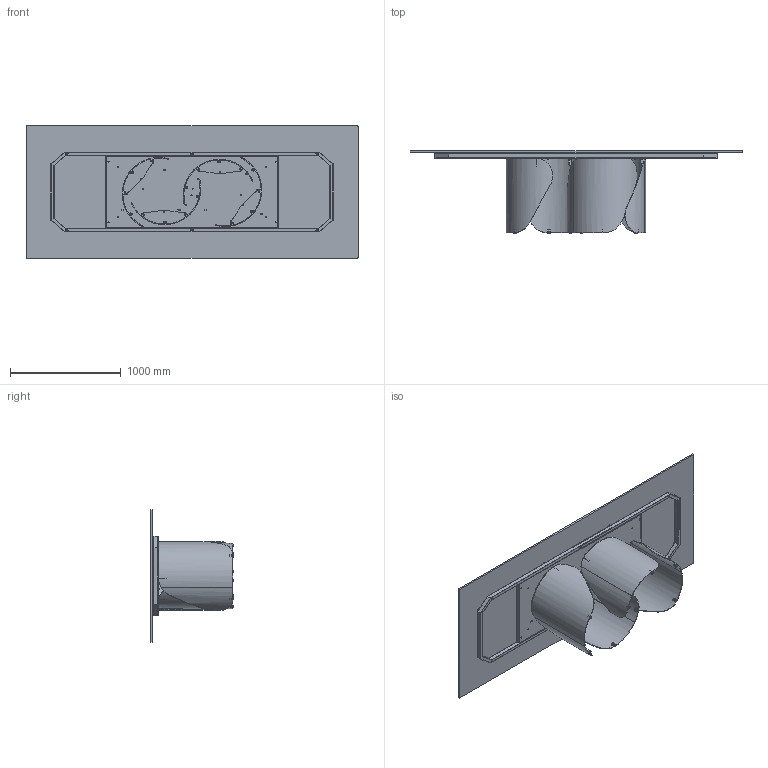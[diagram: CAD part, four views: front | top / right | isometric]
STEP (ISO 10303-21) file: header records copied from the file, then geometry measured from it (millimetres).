
FILE_DESCRIPTION (( 'STEP AP203' ), '1' );
FILE_NAME ('ON24G.STEP', '2024-08-06T13:42:54', ( '' ), ( '' ), 'SwSTEP 2.0', 'SolidWorks 2022', '' );
FILE_SCHEMA (( 'CONFIG_CONTROL_DESIGN' ));
Length unit declared in the file: millimetre
Products named in the file (15): 434070-00-PIEDINO TPV GOMMA NERO D. 30x8max18_filo estetico; COLLO TELAIO UNIVERSALE TTAV07 CON FERRAMENTA_MTG TOP CRISTALLO VERNICIATO-CERAMICA; TTAV07_01-04-STRUTTURA TAVOLI PLAI ONDA NOA 300; PIEDINO PER ONDA; TTAV07_02-01-VASSOIO TELAIO  PLAI ONDA NOA 300; rondella M8_8X24; OND000000-03-ONDA BASE GREZZA; M8xXXmm_M8x20mm; OND000000_03-00-LAMIERA CURVATA PRINCIPALE_OND00000X-00-ONDA BASE GREZZA PROTOTIPO; ON24G; COLLO BASE ONDA SINGOLA CON FERRAMENTA; TTAV07-04-TELAIO X TAVOLI PLAI ONDA NOA 300; OND000000_02-00-CILINDRO DI FISSAGGIO Ø25X17 M8; C2XCRXX-00-Piani Rettangolari Cristallo_24 3000x1200; OND000000_01-00-PIASTRA SUPERIORE BASE ONDA
Assembly tree (56 placements, depth 4):
  ON24G
    COLLO TELAIO UNIVERSALE TTAV07 CON FERRAMENTA_MTG TOP CRISTALLO VERNICIATO-CERAMICA
      TTAV07-04-TELAIO X TAVOLI PLAI ONDA NOA 300
        TTAV07_01-04-STRUTTURA TAVOLI PLAI ONDA NOA 300
        TTAV07_02-01-VASSOIO TELAIO  PLAI ONDA NOA 300
      434070-00-PIEDINO TPV GOMMA NERO D. 30x8max18_filo estetico  x8
    COLLO BASE ONDA SINGOLA CON FERRAMENTA  x4
      OND000000-03-ONDA BASE GREZZA
        OND000000_03-00-LAMIERA CURVATA PRINCIPALE_OND00000X-00-ONDA BASE GREZZA PROTOTIPO
        OND000000_01-00-PIASTRA SUPERIORE BASE ONDA
        OND000000_02-00-CILINDRO DI FISSAGGIO Ø25X17 M8  x2
      PIEDINO PER ONDA
    rondella M8_8X24  x16
    M8xXXmm_M8x20mm  x16
    C2XCRXX-00-Piani Rettangolari Cristallo_24 3000x1200
Bounding box: 3000 x 741 x 1200 mm (x, y, z)
Volume: 71621436.1 mm3; surface area: 15930515.3 mm2
Topology: 83 solids, 83 shells, 1920 faces, 4384 edges, 2672 vertices
Faces by surface type: plane 720, cylinder 672, torus 256, cone 176, bspline 80, sphere 16
Entity records: 21977 total; most frequent: CARTESIAN_POINT 4931, DIRECTION 3102, ORIENTED_EDGE 2890, EDGE_CURVE 1445, AXIS2_PLACEMENT_3D 1159, VERTEX_POINT 914, VECTOR 784, LINE 784
